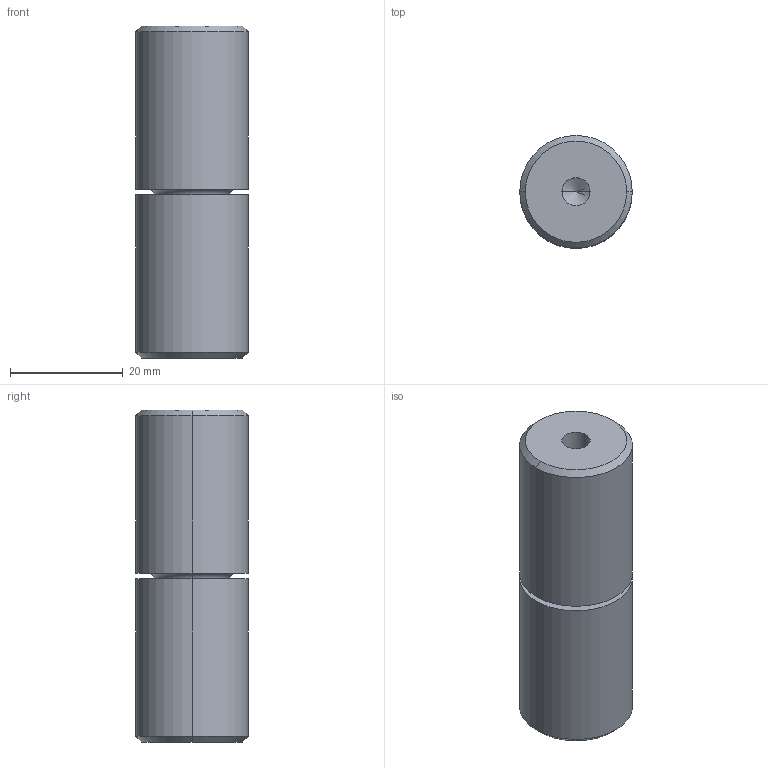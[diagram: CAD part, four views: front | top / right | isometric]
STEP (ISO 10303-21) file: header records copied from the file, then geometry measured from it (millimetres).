
FILE_DESCRIPTION (( 'STEP AP214' ), '1' );
FILE_NAME ('TPNF20-16.STEP', '2024-05-03T17:10:42', ( '' ), ( '' ), 'SwSTEP 2.0', 'SolidWorks 2017', '' );
FILE_SCHEMA (( 'AUTOMOTIVE_DESIGN' ));
Length unit declared in the file: millimetre
Products named in the file (3): TPNF20-16; TPNFP20-16_TPNFP20-16; TPNFB20-16_TPNFB20-16
Assembly tree (2 placements, depth 2):
  TPNF20-16
    TPNFP20-16_TPNFP20-16
    TPNFB20-16_TPNFB20-16
Bounding box: 20 x 20 x 59 mm (x, y, z)
Volume: 17433.5 mm3; surface area: 6568.5 mm2
Topology: 2 solids, 2 shells, 34 faces, 68 edges, 39 vertices
Faces by surface type: cylinder 12, cone 8, torus 8, plane 6
Entity records: 1034 total; most frequent: DIRECTION 190, CARTESIAN_POINT 144, ORIENTED_EDGE 132, AXIS2_PLACEMENT_3D 85, EDGE_CURVE 66, CIRCLE 46, VERTEX_POINT 39, EDGE_LOOP 39
